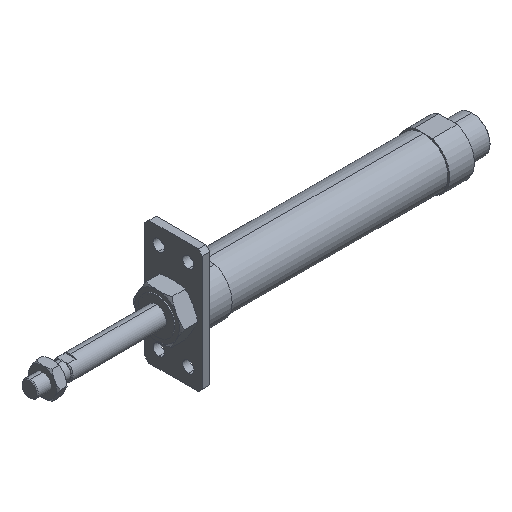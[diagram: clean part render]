
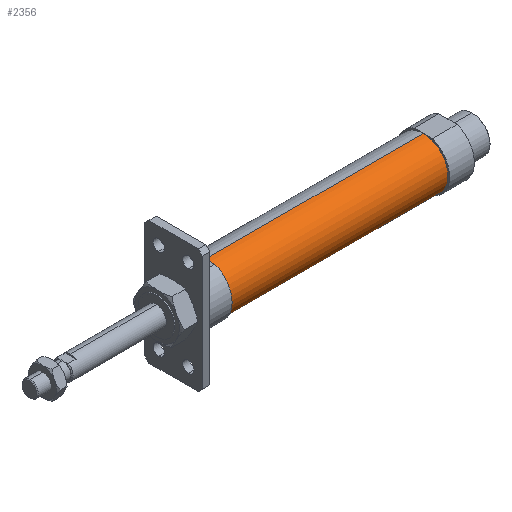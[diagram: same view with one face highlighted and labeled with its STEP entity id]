
A CAD part, isometric view. The second image highlights one B-rep face of the part: STEP entity #2356.
In plain terms, the highlighted cylindrical face has radius 15 mm (diameter 30 mm), a partial arc.
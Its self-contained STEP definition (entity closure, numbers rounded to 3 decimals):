
#67 = CARTESIAN_POINT ( 'NONE',  ( 239., 0., -15. ) ) ;
#163 = VECTOR ( 'NONE', #628, 1000. ) ;
#209 = DIRECTION ( 'NONE',  ( 0., 0., 1. ) ) ;
#263 = EDGE_CURVE ( 'NONE', #537, #3634, #2845, .T. ) ;
#286 = CARTESIAN_POINT ( 'NONE',  ( 239., 0., 0. ) ) ;
#537 = VERTEX_POINT ( 'NONE', #2960 ) ;
#628 = DIRECTION ( 'NONE',  ( -1., 0., 0. ) ) ;
#761 = ORIENTED_EDGE ( 'NONE', *, *, #263, .F. ) ;
#786 = ORIENTED_EDGE ( 'NONE', *, *, #3687, .F. ) ;
#848 = DIRECTION ( 'NONE',  ( -1., 0., 0. ) ) ;
#858 = DIRECTION ( 'NONE',  ( 0., 0., 1. ) ) ;
#1011 = DIRECTION ( 'NONE',  ( -1., 0., 0. ) ) ;
#1072 = EDGE_CURVE ( 'NONE', #2357, #2288, #1665, .T. ) ;
#1389 = CARTESIAN_POINT ( 'NONE',  ( 107., 0., 15. ) ) ;
#1476 = EDGE_CURVE ( 'NONE', #2288, #3634, #2482, .T. ) ;
#1570 = DIRECTION ( 'NONE',  ( -1., 0., 0. ) ) ;
#1665 = CIRCLE ( 'NONE', #3217, 15. ) ;
#1763 = AXIS2_PLACEMENT_3D ( 'NONE', #2780, #1570, #858 ) ;
#1797 = DIRECTION ( 'NONE',  ( -1., 0., 0. ) ) ;
#1816 = ORIENTED_EDGE ( 'NONE', *, *, #1072, .T. ) ;
#1868 = DIRECTION ( 'NONE',  ( 0., 0., 1. ) ) ;
#1976 = FACE_OUTER_BOUND ( 'NONE', #2705, .T. ) ;
#2015 = CARTESIAN_POINT ( 'NONE',  ( -6.469, 0., -15. ) ) ;
#2288 = VERTEX_POINT ( 'NONE', #3721 ) ;
#2324 = VECTOR ( 'NONE', #1011, 1000. ) ;
#2356 = ADVANCED_FACE ( 'NONE', ( #1976 ), #2633, .T. ) ;
#2357 = VERTEX_POINT ( 'NONE', #67 ) ;
#2403 = ORIENTED_EDGE ( 'NONE', *, *, #1476, .T. ) ;
#2482 = LINE ( 'NONE', #3763, #163 ) ;
#2504 = CARTESIAN_POINT ( 'NONE',  ( -6.469, 0., 0. ) ) ;
#2633 = CYLINDRICAL_SURFACE ( 'NONE', #2699, 15. ) ;
#2699 = AXIS2_PLACEMENT_3D ( 'NONE', #2504, #1797, #209 ) ;
#2705 = EDGE_LOOP ( 'NONE', ( #786, #1816, #2403, #761 ) ) ;
#2780 = CARTESIAN_POINT ( 'NONE',  ( 107., 0., 0. ) ) ;
#2845 = CIRCLE ( 'NONE', #1763, 15. ) ;
#2960 = CARTESIAN_POINT ( 'NONE',  ( 107., 0., -15. ) ) ;
#3192 = LINE ( 'NONE', #2015, #2324 ) ;
#3217 = AXIS2_PLACEMENT_3D ( 'NONE', #286, #848, #1868 ) ;
#3634 = VERTEX_POINT ( 'NONE', #1389 ) ;
#3687 = EDGE_CURVE ( 'NONE', #2357, #537, #3192, .T. ) ;
#3721 = CARTESIAN_POINT ( 'NONE',  ( 239., 0., 15. ) ) ;
#3763 = CARTESIAN_POINT ( 'NONE',  ( -6.469, 0., 15. ) ) ;
